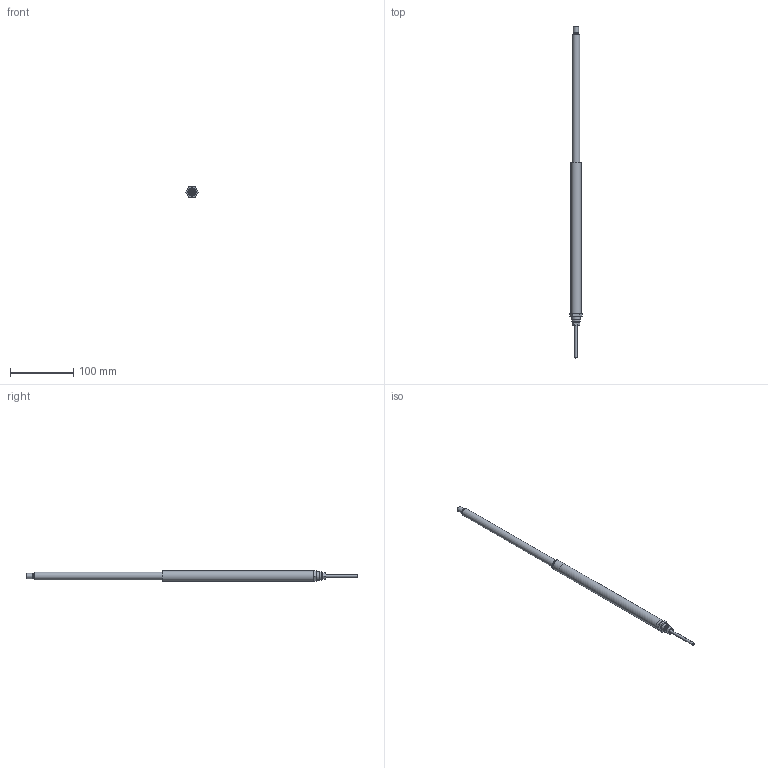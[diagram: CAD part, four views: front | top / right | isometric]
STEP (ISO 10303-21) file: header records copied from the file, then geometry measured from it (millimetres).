
FILE_DESCRIPTION(/* description */ ('Unknown'),/* implementation_level */ '2;1');
FILE_NAME(/* name */ '107.00132 Zylinder CG 1420_ausgefahren',/* time_stamp */ '2018-06-15T14:54:13+02:00',/* author */ ('Unknown'),/* organization */ ('Unknown'),/* preprocessor_version */ 'ST-DEVELOPER v16.7',/* originating_system */ 'DEX',/* authorisation */ $);
FILE_SCHEMA (('AUTOMOTIVE_DESIGN {1 0 10303 214 3 1 1}'));
Length unit declared in the file: millimetre
Products named in the file (9): 107.00132; 121.00002; 142.00021; 125.00021; 115.00007_oa_0; 125.00031; 120.00022; 122.00001; 113.00002_70mm
Assembly tree (8 placements, depth 2):
  107.00132
    121.00002
    142.00021
    125.00021
    115.00007_oa_0
    125.00031
    120.00022
    122.00001
    113.00002_70mm
Bounding box: 19.63 x 523 x 17 mm (x, y, z)
Volume: 41255.9 mm3; surface area: 36764.7 mm2
Topology: 7 solids, 7 shells, 95 faces, 187 edges, 118 vertices
Faces by surface type: plane 38, cylinder 28, cone 23, torus 5, sphere 1
Full cylindrical faces by diameter (mm): 2.2 x1, 3.5 x1, 4 x1, 4.1 x1, 4.2 x1, 6 x1, 6.917 x2, 7.763 x2, 8 x4, 8.1 x3, 9 x1, 12 x2, 12.5 x1, 13 x2, 13.9 x2, 14 x2, 16 x1
Entity records: 2880 total; most frequent: DIRECTION 402, CARTESIAN_POINT 377, ORIENTED_EDGE 254, AXIS2_PLACEMENT_3D 183, FACE_BOUND 169, EDGE_LOOP 168, EDGE_CURVE 127, VERTEX_POINT 110
